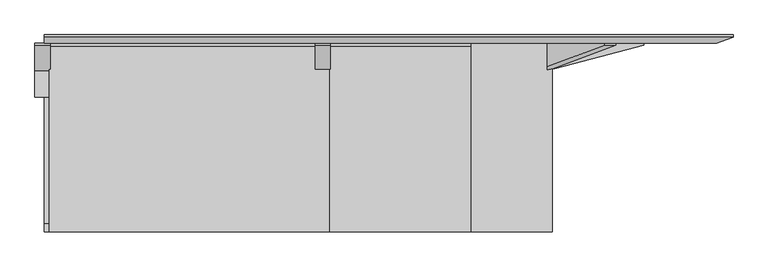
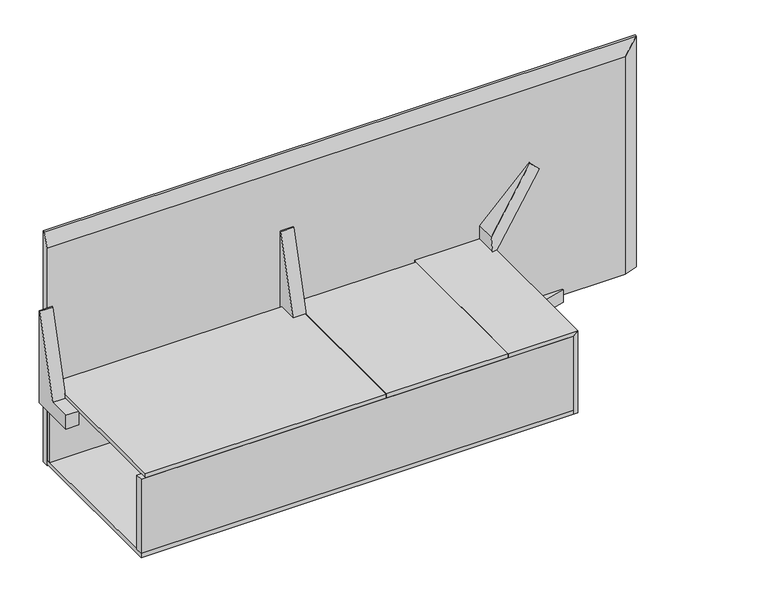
"""IFC4 building model written with IfcOpenShell, lengths in millimetres: proxy geometry, VIEWLINE^TABLE 2_RIGHT CORNER TOP-ASSEMBLY."""

import ifcopenshell
import ifcopenshell.guid

model = None  # the IFC model being written
_history = None  # IfcOwnerHistory: only IFC2X3 demands one
_inside = {}  # id of a spatial element -> (the spatial element, [elements in it])
_under = {}  # id of a project, library or spatial element -> (it, [spatial elements below it])
_declared = {}  # id of a project -> (the project, [libraries it declares])
_typed = {}  # id of a type object -> (the type object, [elements of that type])
_made_of = {}  # id of a material, layer set ... -> (it, [elements and type objects made of it])


def new_model(schema):
    """Start an empty IFC model of exactly this schema.

    Asked for "IFC4X3", IfcOpenShell would pick the latest addendum, in which some entities
    have other attributes; the version numbers below select the first issue.
    IFC2X3 requires an IfcOwnerHistory on every rooted entity: one is made here for all.
    """
    global model, _history
    if schema == "IFC4X3":
        model = ifcopenshell.file(schema_version=(4, 3, 0, 0))
    else:
        model = ifcopenshell.file(schema=schema)
    _inside.clear()
    _under.clear()
    _declared.clear()
    _typed.clear()
    _made_of.clear()
    _history = None
    if model.schema == "IFC2X3":
        org = make("IfcOrganization", Name="unknown")
        user = make(
            "IfcPersonAndOrganization",
            ThePerson=make("IfcPerson", FamilyName="unknown"),
            TheOrganization=org,
        )
        app = make(
            "IfcApplication",
            ApplicationDeveloper=org,
            Version="unknown",
            ApplicationFullName="unknown",
            ApplicationIdentifier="unknown",
        )
        _history = make(
            "IfcOwnerHistory",
            OwningUser=user,
            OwningApplication=app,
            ChangeAction="ADDED",
            CreationDate=0,
        )
    return model


def make(cls, **values):
    """One entity of the class cls with the attributes given. An attribute that is None is left unset."""
    return model.create_entity(
        cls, **{name: value for name, value in values.items() if value is not None}
    )


def rooted(cls, **values):
    """An entity with a GlobalId (a new one), such as an element, a storey or a relation."""
    return make(cls, GlobalId=ifcopenshell.guid.new(), OwnerHistory=_history, **values)


def si_unit(unit_type, name, prefix=None):
    """IfcSIUnit, for example si_unit("LENGTHUNIT", "METRE", prefix="MILLI")."""
    return make("IfcSIUnit", UnitType=unit_type, Prefix=prefix, Name=name)


def assignment(units):
    """IfcUnitAssignment: the units of a project."""
    return None if units is None else make("IfcUnitAssignment", Units=units)


def point(xyz):
    """IfcCartesianPoint."""
    return None if xyz is None else make("IfcCartesianPoint", Coordinates=xyz)


def direction(xyz):
    """IfcDirection."""
    return None if xyz is None else make("IfcDirection", DirectionRatios=xyz)


def frame(location, z_axis=None, x_axis=None):
    """IfcAxis2Placement3D, a coordinate frame: its origin and axes. An axis left out is left unset."""
    return make(
        "IfcAxis2Placement3D",
        Location=point(location),
        Axis=direction(z_axis),
        RefDirection=direction(x_axis),
    )


def origin():
    """The frame at (0, 0, 0) with its axes left unset."""
    return frame((0.0, 0.0, 0.0))


def place(relative_to, where):
    """IfcLocalPlacement: puts the frame where relative to a parent placement (None: the world)."""
    return make(
        "IfcLocalPlacement", PlacementRelTo=relative_to, RelativePlacement=where
    )


def context(
    kind, dimensions, precision=None, world=None, true_north=None, identifier=None
):
    """IfcGeometricRepresentationContext, for example the 3D "Model" context."""
    return make(
        "IfcGeometricRepresentationContext",
        ContextIdentifier=identifier,
        ContextType=kind,
        CoordinateSpaceDimension=dimensions,
        Precision=precision,
        WorldCoordinateSystem=world,
        TrueNorth=true_north,
    )


def project(units=None, contexts=None):
    """IfcProject with its units and contexts."""
    return rooted(
        "IfcProject",
        Name="project",
        RepresentationContexts=contexts,
        UnitsInContext=assignment(units),
    )


def spatial(cls, under=None, at=None, **own):
    """A site, building, storey or space (cls), placed at a placement, below another one or the project."""
    s = rooted(cls, ObjectPlacement=at, **own)
    if under is not None:
        _under.setdefault(under.id(), (under, []))[1].append(s)
    return s


def polyline(points):
    """IfcPolyline through the points."""
    return make("IfcPolyline", Points=[point(p) for p in points])


def outline(outer, holes=None, kind="AREA"):
    """IfcArbitraryClosedProfileDef: a profile drawn as a closed curve; with holes, ...WithVoids."""
    if holes is None:
        return make("IfcArbitraryClosedProfileDef", ProfileType=kind, OuterCurve=outer)
    return make(
        "IfcArbitraryProfileDefWithVoids",
        ProfileType=kind,
        OuterCurve=outer,
        InnerCurves=holes,
    )


def extrude(swept, where, along, depth):
    """IfcExtrudedAreaSolid: the profile swept, set in the frame where, extruded along a direction by depth."""
    return make(
        "IfcExtrudedAreaSolid",
        SweptArea=swept,
        Position=where,
        ExtrudedDirection=direction(along),
        Depth=depth,
    )


def faces_of(points, faces, orient=None, outer=None):
    """IfcFace entities. A face is a list of loops; a loop is a list of indices into points, from 0.

    orient and outer hold one flag for each loop. By default every Orientation is true, the
    first loop of a face is its IfcFaceOuterBound and the others are IfcFaceBound.
    """
    made = []
    for i, loops in enumerate(faces):
        bounds = []
        for j, loop in enumerate(loops):
            is_outer = j == 0 if outer is None else outer[i][j]
            bounds.append(
                make(
                    "IfcFaceOuterBound" if is_outer else "IfcFaceBound",
                    Bound=make("IfcPolyLoop", Polygon=[points[k] for k in loop]),
                    Orientation=True if orient is None else orient[i][j],
                )
            )
        made.append(make("IfcFace", Bounds=bounds))
    return made


def faceted_brep(points, faces, orient=None, outer=None, voids=None):
    """IfcFacetedBrep: a solid bounded by flat faces; with voids (closed shells), ...WithVoids."""
    shared = [point(p) for p in points]
    hull = make("IfcClosedShell", CfsFaces=faces_of(shared, faces, orient, outer))
    if voids is None:
        return make("IfcFacetedBrep", Outer=hull)
    return make(
        "IfcFacetedBrepWithVoids",
        Outer=hull,
        Voids=[
            make(cls, CfsFaces=faces_of(shared, fs, o, b)) for cls, fs, o, b in voids
        ],
    )


def shape(context_of_items, identifier, shape_type, items):
    """IfcShapeRepresentation: the items that make up one representation, for example the "Body"."""
    return make(
        "IfcShapeRepresentation",
        ContextOfItems=context_of_items,
        RepresentationIdentifier=identifier,
        RepresentationType=shape_type,
        Items=items,
    )


def source(mapping_origin, context_of_items, identifier, shape_type, items):
    """IfcRepresentationMap: a shape defined once, which mapped items show again and again."""
    return make(
        "IfcRepresentationMap",
        MappingOrigin=mapping_origin,
        MappedRepresentation=shape(context_of_items, identifier, shape_type, items),
    )


def transform(
    local_origin,
    x_axis=None,
    y_axis=None,
    z_axis=None,
    scale=None,
    scale2=None,
    scale3=None,
    uniform=True,
):
    """IfcCartesianTransformationOperator3D, or its non-uniform kind. x_axis, y_axis, z_axis: its Axis1, 2, 3."""
    if uniform:
        return make(
            "IfcCartesianTransformationOperator3D",
            Axis1=direction(x_axis),
            Axis2=direction(y_axis),
            LocalOrigin=point(local_origin),
            Scale=scale,
            Axis3=direction(z_axis),
        )
    return make(
        "IfcCartesianTransformationOperator3DnonUniform",
        Axis1=direction(x_axis),
        Axis2=direction(y_axis),
        LocalOrigin=point(local_origin),
        Scale=scale,
        Axis3=direction(z_axis),
        Scale2=scale2,
        Scale3=scale3,
    )


def mapped(mapping_source, mapping_target):
    """IfcMappedItem: shows the shape of a source again, moved by a transform."""
    return make(
        "IfcMappedItem", MappingSource=mapping_source, MappingTarget=mapping_target
    )


def made_of(thing, what):
    """Note that an element or type object is made of a material, layer set ...; save() writes the relation."""
    if what is not None:
        _made_of.setdefault(what.id(), (what, []))[1].append(thing)
    return thing


def element(
    cls,
    number,
    at=None,
    inside=None,
    cuts=None,
    type_object=None,
    material=None,
    context=None,
    identifier="Body",
    shape_type=None,
    held_by="IfcProductDefinitionShape",
    body=None,
    shapes=None,
    **own,
):
    """One element of the class cls, such as IfcWall. Its Tag is "e" and its number.

    at: its placement. inside: the storey or other place that contains it. cuts: it is an
    opening in that element (IfcRelVoidsElement). A single representation is given by context,
    identifier, shape_type and body (its items); several are given by shapes. held_by: the class
    of the entity that holds the representations. save() writes the other relations.
    """
    e = rooted(cls, Tag="e%d" % number, ObjectPlacement=at, **own)
    if body is not None:
        shapes = [shape(context, identifier, shape_type, body)]
    if shapes is not None:
        e.Representation = make(held_by, Representations=shapes)
    if inside is not None:
        _inside.setdefault(inside.id(), (inside, []))[1].append(e)
    if cuts is not None:
        rooted(
            "IfcRelVoidsElement", RelatingBuildingElement=cuts, RelatedOpeningElement=e
        )
    if type_object is not None:
        _typed.setdefault(type_object.id(), (type_object, []))[1].append(e)
    return made_of(e, material)


def aggregate(whole, parts):
    """IfcRelAggregates: a whole, such as a stair, and the parts it consists of."""
    return rooted("IfcRelAggregates", RelatingObject=whole, RelatedObjects=parts)


def save(model, path):
    """Write the relations noted so far, then the file.

    IfcRelAggregates (storeys below a building ...), IfcRelContainedInSpatialStructure (elements
    in a storey), IfcRelDefinesByType, IfcRelAssociatesMaterial and IfcRelDeclares: one each for
    every whole, place, type object, material and project.
    """
    for whole, parts in _under.values():
        aggregate(whole, parts)
    for where, things in _inside.values():
        rooted(
            "IfcRelContainedInSpatialStructure",
            RelatedElements=things,
            RelatingStructure=where,
        )
    for kind, things in _typed.values():
        rooted("IfcRelDefinesByType", RelatedObjects=things, RelatingType=kind)
    for what, things in _made_of.values():
        rooted("IfcRelAssociatesMaterial", RelatedObjects=things, RelatingMaterial=what)
    for by, libraries in _declared.values():
        rooted("IfcRelDeclares", RelatingContext=by, RelatedDefinitions=libraries)
    model.write(path)


def generic_models_f300016d(model_context):
    return source(origin(), model_context, "Body", "SolidModel", [
        extrude(outline(polyline([(2825.75, 1911.35), (2825.75, 1606.55), (2806.7, 1606.55), (2806.7, 1892.3), (2825.75, 1911.35)])), frame((0.0, -711.2, 0.0), z_axis=(0.0, 1.0, 0.0), x_axis=(0.0, 0.0, 1.0)), (0.0, 0.0, 1.0), 711.2),
        extrude(outline(polyline([(1073.15, -679.45), (1054.1, -679.45), (1054.1, -19.05), (1073.15, -19.05), (1073.15, -679.45)])), frame((0.0, 0.0, 2463.8), z_axis=(0.0, 0.0, 1.0), x_axis=(1.0, 0.0, 0.0)), (0.0, 0.0, 1.0), 342.9),
        extrude(outline(polyline([(1892.3, -711.2), (0.0, -711.2), (0.0, -679.45), (1892.3, -679.45), (1892.3, -711.2)])), frame((0.0, 0.0, 2463.8), z_axis=(0.0, 0.0, 1.0), x_axis=(1.0, 0.0, 0.0)), (0.0, 0.0, 1.0), 342.9),
        extrude(outline(polyline([(1073.15, -12.7), (1604.9625, -12.7), (1604.9625, -711.2), (1073.15, -711.2), (1073.15, -12.7)])), frame((0.0, 0.0, 2806.7), z_axis=(0.0, 0.0, 1.0), x_axis=(1.0, 0.0, 0.0)), (0.0, 0.0, 1.0), 19.05),
        extrude(outline(polyline([(1265.2375, 19.05), (1265.2375, 31.75), (1462.0875, 31.75), (1462.0875, 19.05), (1265.2375, 19.05)])), frame((0.0, 0.0, 2561.2441511), z_axis=(0.0, 0.0, 1.0), x_axis=(1.0, 0.0, 0.0)), (0.0, 0.0, 1.0), 133.35),
        extrude(outline(polyline([(1828.8, 0.0), (2254.25, 0.0), (2254.25, -6.35), (1892.3, -103.3342102), (1892.3, -203.2), (1828.8, -203.2), (1828.8, 0.0)])), frame((0.0, 0.0, 2409.19), z_axis=(0.0, 0.0, 1.0), x_axis=(1.0, 0.0, 0.0)), (0.0, 0.0, 1.0), 57.15),
        extrude(outline(polyline([(0.0, 0.0), (1892.3, 0.0), (1892.3, -711.2), (0.0, -711.2), (0.0, 0.0)])), frame((0.0, 0.0, 2444.75), z_axis=(0.0, 0.0, 1.0), x_axis=(1.0, 0.0, 0.0)), (0.0, 0.0, 1.0), 19.05),
        extrude(outline(polyline([(0.0, 3168.65), (0.0, 2743.2), (-203.2, 2743.2), (-203.2, 2806.7), (-103.3342102, 2806.7), (-6.35, 3168.65), (0.0, 3168.65)])), frame((-35.56, 0.0, 0.0), z_axis=(1.0, 0.0, 0.0), x_axis=(0.0, 1.0, 0.0)), (0.0, 0.0, 1.0), 57.15),
        extrude(outline(polyline([(2825.75, 1911.35), (2806.7, 1892.3), (2444.75, 1892.3), (2444.75, 1911.35), (2825.75, 1911.35)])), frame((0.0, -711.2, 0.0), z_axis=(0.0, 1.0, 0.0), x_axis=(0.0, 0.0, 1.0)), (0.0, 0.0, 1.0), 711.2),
        faceted_brep([(2590.8, 31.75, 3505.2), (2590.8, 31.75, 2438.4), (0.0, 31.75, 2438.4), (0.0, 31.75, 3505.2), (2529.7373144, 0.0, 2438.4), (2529.7373144, 0.0, 3444.1373144), (0.0, 0.0, 3444.1373144), (0.0, 0.0, 2438.4), (2590.8, 22.225, 3505.2), (2590.8, 22.225, 2438.4), (0.0, 22.225, 3505.2)], [[[0, 1, 2, 3]], [[4, 5, 6, 7]], [[1, 0, 8, 9]], [[5, 8, 10, 6]], [[0, 3, 10, 8]], [[9, 8, 5, 4]], [[6, 10, 3, 2, 7]], [[9, 4, 7, 2, 1]]]),
        extrude(outline(polyline([(0.0, 3168.65), (0.0, 2743.2), (-203.2, 2743.2), (-203.2, 2806.7), (-103.3342102, 2806.7), (-6.35, 3168.65), (0.0, 3168.65)])), frame((1018.54, 0.0, 0.0), z_axis=(1.0, 0.0, 0.0), x_axis=(0.0, 1.0, 0.0)), (0.0, 0.0, 1.0), 57.15),
        faceted_brep([(2108.3160957, 0.0, 3103.5384008), (2108.3160957, -6.3480098, 3103.5384008), (2148.7272482, -6.3480098, 3063.1272482), (2148.7272482, 0.0, 3063.1272482), (1894.2778463, -102.7684, 2808.6778463), (1890.9938976, -102.7684, 2811.9617951), (1890.9938976, -102.7684, 2806.7), (1893.5338976, -102.7684, 2806.7), (1893.5338976, -102.7684, 2807.9338976), (1890.9938976, -88.6995146, 2886.2162026), (1890.9938976, 0.0, 2743.2), (1890.9938976, -203.2, 2743.2), (1890.9938976, -203.2, 2806.7), (1890.9938976, 0.0, 2886.2162026), (1893.5338976, 0.0, 2807.9338976), (1893.5338976, -203.2, 2806.7), (1893.5338976, -203.2, 2743.2), (1893.5338976, 0.0, 2743.2)], [[[0, 1, 2, 3]], [[4, 5, 6, 7, 8]], [[1, 9, 5, 4, 2]], [[10, 11, 12, 6, 5, 9, 13]], [[14, 8, 7, 15, 16, 17]], [[13, 0, 3, 14, 17, 10]], [[8, 14, 3, 2, 4]], [[12, 15, 7, 6]], [[15, 12, 11, 16]], [[17, 16, 11, 10]], [[0, 13, 9, 1]]]),
        extrude(outline(polyline([(19.05, -12.7), (1071.5625, -12.7), (1071.5625, -711.2), (19.05, -711.2), (19.05, -12.7)])), frame((0.0, 0.0, 2806.7), z_axis=(0.0, 0.0, 1.0), x_axis=(1.0, 0.0, 0.0)), (0.0, 0.0, 1.0), 19.05),
        extrude(outline(polyline([(0.0, 0.0), (1892.3, 0.0), (1892.3, -19.05), (0.0, -19.05), (0.0, 0.0)])), frame((0.0, 0.0, 2463.8), z_axis=(0.0, 0.0, 1.0), x_axis=(1.0, 0.0, 0.0)), (0.0, 0.0, 1.0), 342.9),
    ])


if __name__ == "__main__":
    model = new_model("IFC4")
    model_context = context("Model", 3, world=origin())
    ifc_project = project(units=[si_unit("LENGTHUNIT", "METRE", prefix="MILLI")], contexts=[model_context])
    site = spatial("IfcSite", under=ifc_project)
    building = spatial("IfcBuilding", under=site)
    placement = place(None, origin())
    generic_models_shape = generic_models_f300016d(model_context)
    element("IfcBuildingElementProxy", 1, Name="VIEWLINE^TABLE 2_RIGHT CORNER TOP-ASSEMBLY", ObjectType="VIEWLINE^TABLE 2_RIGHT CORNER TOP-ASSEMBLY", at=placement, inside=building, context=model_context, shape_type="MappedRepresentation", body=[
        mapped(generic_models_shape, transform((0.0, 0.0, 0.0), x_axis=(1.0, 0.0, 0.0), y_axis=(0.0, 1.0, 0.0), z_axis=(0.0, 0.0, 1.0))),
    ])
    save(model, "model.ifc")
